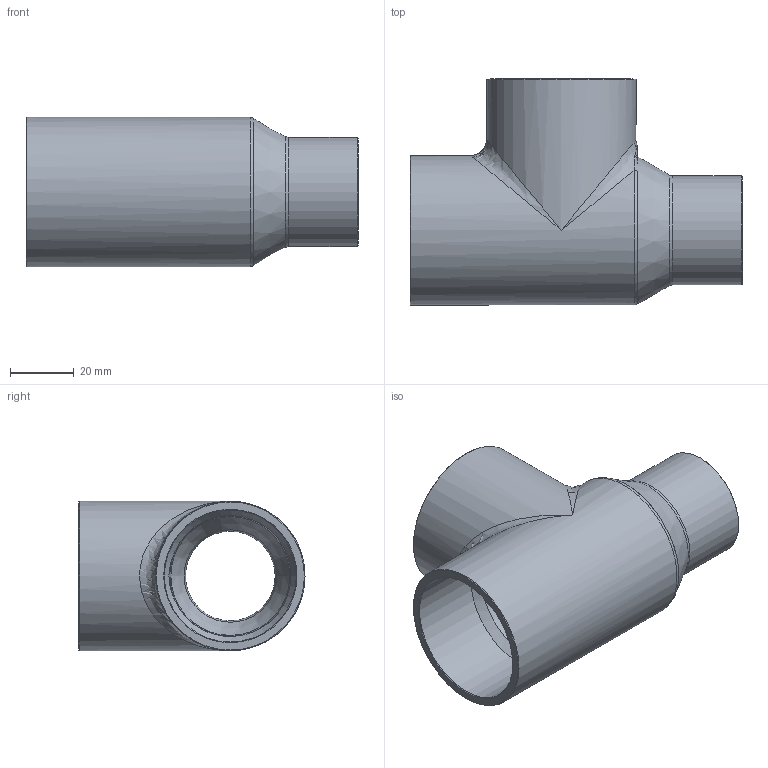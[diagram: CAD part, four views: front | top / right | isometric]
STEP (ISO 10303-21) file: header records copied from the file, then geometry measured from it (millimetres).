
FILE_DESCRIPTION((''),'2;1');
FILE_NAME('G:\SANHA-Ternat\Technik\Management\Bouwmaten + markeringen\z-maattekeningen 3D\29000s\29130158158118_3d.stp','2017-08-03T13:13:07',('vdvijverd'),(''),'Autodesk Inventor 2009','Autodesk Inventor 2009','');
FILE_SCHEMA(('AUTOMOTIVE_DESIGN { 1 0 10303 214 1 1 1 1 }'));
Length unit declared in the file: millimetre
Products named in the file (1): 29130158158118_3d
Bounding box: 104.2 x 70.95 x 46.9 mm (x, y, z)
Volume: 53974.3 mm3; surface area: 33027.6 mm2
Topology: 1 solids, 1 shells, 36 faces, 91 edges, 48 vertices
Faces by surface type: cone 10, bspline 10, cylinder 9, plane 4, torus 3
Full cylindrical faces by diameter (mm): 28.725 x1, 34.225 x1, 38 x1, 41.455 x2, 46.9 x2
Entity records: 2106 total; most frequent: CARTESIAN_POINT 1420, DIRECTION 142, ORIENTED_EDGE 106, AXIS2_PLACEMENT_3D 71, EDGE_LOOP 61, EDGE_CURVE 53, VERTEX_POINT 40, FACE_OUTER_BOUND 36
